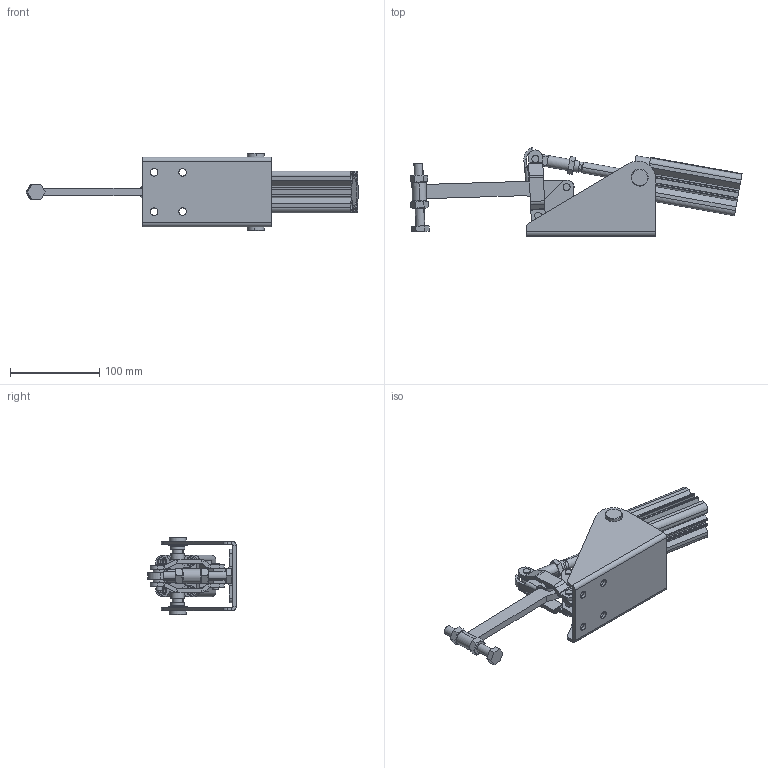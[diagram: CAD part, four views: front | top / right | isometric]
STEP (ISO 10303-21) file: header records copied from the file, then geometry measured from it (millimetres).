
FILE_DESCRIPTION (( 'STEP AP203' ), '1' );
FILE_NAME ('KF-011 DS P.STEP', '2016-12-15T10:31:19', ( 'Ricardo' ), ( '' ), 'SwSTEP 2.0', 'SolidWorks 2015', '' );
FILE_SCHEMA (( 'CONFIG_CONTROL_DESIGN' ));
Length unit declared in the file: millimetre
Products named in the file (22): 2 PC 21287; 16.20067; 01.10088; 3 PC 21287; CNKFE032KT; 04.10002; 2800320600CP_avan㌢do; 20.20005; 04.20002; KF-011 DS P; 11.50003; 06.50007; 12.50004; 06.50008; PSB-M10; 03.15004; 501-016; 15.10052; 02.12009_Direita; 1 PC 21287; 15.20006; 02.12009_Esquerda
Assembly tree (27 placements, depth 3):
  KF-011 DS P
    02.12009_Direita
    02.12009_Esquerda
    01.10088  x2
    04.10002
    04.20002
    06.50007  x2
    06.50008  x2
    03.15004
    15.10052
    15.20006
    16.20067  x2
    CNKFE032KT
    PSB-M10
      20.20005
      11.50003  x2
      12.50004
    501-016  x2
    2800320600CP_avan㌢do
      1 PC 21287
      2 PC 21287
      3 PC 21287
Bounding box: 372.71 x 99.27 x 86.5 mm (x, y, z)
Volume: 331508.6 mm3; surface area: 173365.8 mm2
Topology: 25 solids, 25 shells, 719 faces, 1711 edges, 1073 vertices
Faces by surface type: cylinder 330, plane 302, cone 86, sphere 1
Entity records: 20358 total; most frequent: CARTESIAN_POINT 3366, DIRECTION 3260, ORIENTED_EDGE 2844, EDGE_CURVE 1422, AXIS2_PLACEMENT_3D 1256, VERTEX_POINT 904, VECTOR 748, LINE 748
